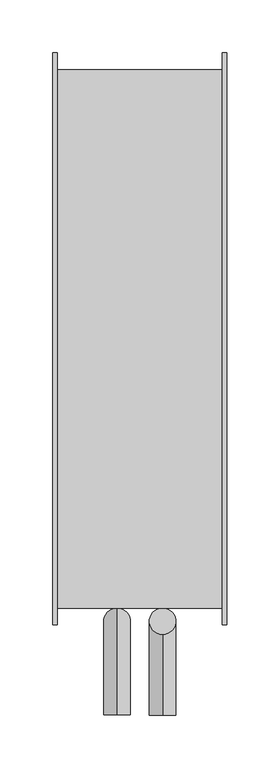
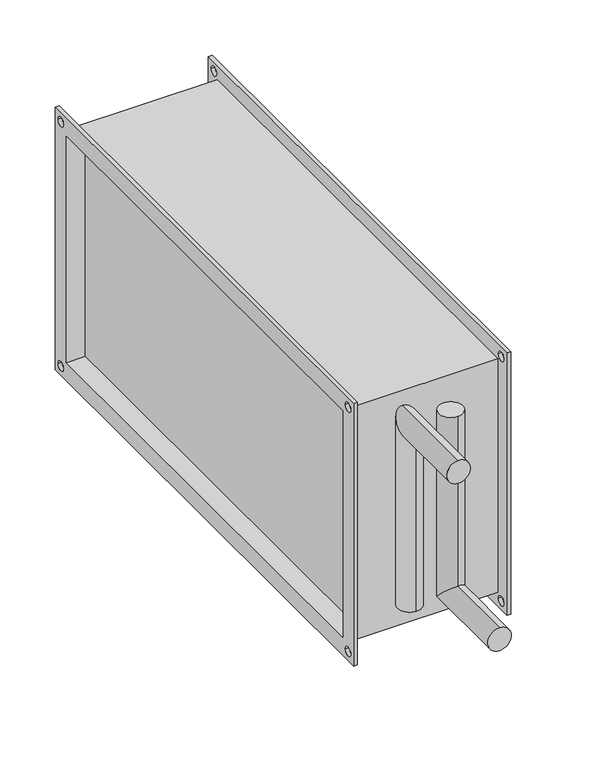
"""IFC4 building model written with IfcOpenShell, lengths in millimetres: proxy geometry, СВ_ВоздухонагревательВодяной_КанальныйПрямоугольный_200-1000_SPH-W : SPH-W-500x250/2."""

from ifc_helpers import new_model, si_unit, frame, origin, place, context, project, spatial, polyline, circle_curve, ellipse_curve, source, transform, mapped, element, save
from ifc_brep_helpers import plane_surface, cylinder_surface, revolved_surface, advanced_brep


def mechanical_equipment_88e3c877(model_context):
    return source(origin(), model_context, "Body", "AdvancedBrep", [
        advanced_brep(
        [(21.5, -254.0, 100.0), (21.5, -279.0, 100.0), (21.5, -254.0, -112.5), (21.5, -279.0, -87.5), (21.5, -355.0, -112.5), (21.5, -355.0, -87.5)],
        [
            (0, 1, circle_curve(frame((21.5, -266.5, 100.0), z_axis=(0.0, 0.0, 1.0), x_axis=(0.0, -1.0, 0.0)), 12.5)),
            (1, 0, circle_curve(frame((21.5, -266.5, 100.0), z_axis=(0.0, 0.0, 1.0), x_axis=(0.0, -1.0, 0.0)), 12.5)),
            (0, 2),
            (2, 3, ellipse_curve(frame((21.5, -266.5, -100.0), z_axis=(0.0, 0.7071067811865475, 0.7071067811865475), x_axis=(0.0, -0.7071067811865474, 0.7071067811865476)), 17.6776695, 12.5)),
            (3, 1),
            (3, 2, ellipse_curve(frame((21.5, -266.5, -100.0), z_axis=(0.0, 0.7071067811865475, 0.7071067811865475), x_axis=(0.0, -0.7071067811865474, 0.7071067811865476)), 17.6776695, 12.5)),
            (4, 5, circle_curve(frame((21.5, -355.0, -100.0), z_axis=(0.0, -1.0, 0.0), x_axis=(0.0, 0.0, 1.0)), 12.5)),
            (5, 4, circle_curve(frame((21.5, -355.0, -100.0), z_axis=(0.0, -1.0, 0.0), x_axis=(0.0, 0.0, 1.0)), 12.5)),
            (2, 4),
            (5, 3),
        ],
        [
            plane_surface(frame((21.5, -266.5, 100.0), z_axis=(0.0, 0.0, 1.0), x_axis=(-1.0, 0.0, 0.0))),
            cylinder_surface(frame((21.5, -266.5, 100.0), z_axis=(0.0, 0.0, 1.0), x_axis=(0.0, -1.0, 0.0)), 12.5),
            plane_surface(frame((21.5, -355.0, -100.0), z_axis=(0.0, -1.0, 0.0), x_axis=(-1.0, 0.0, 0.0))),
            cylinder_surface(frame((21.5, -266.5, -100.0), z_axis=(0.0, 1.0, 0.0), x_axis=(0.0, 0.0, 1.0)), 12.5),
        ],
        [
            (0, [[1, 2]]),
            (1, [[-1, 3, 4, 5]]),
            (1, [[-2, -5, 6, -3]]),
            (2, [[7, 8]]),
            (3, [[-4, 9, -8, 10]]),
            (3, [[-6, -10, -7, -9]]),
        ],
    ),
        advanced_brep(
        [(-21.5, -254.0, -100.0), (-21.5, -279.0, -100.0), (-21.5, -254.0, 112.5), (-21.5, -279.0, 87.5), (-21.5, -355.0, 112.5), (-21.5, -355.0, 87.5)],
        [
            (0, 1, circle_curve(frame((-21.5, -266.5, -100.0), z_axis=(0.0, 0.0, -1.0), x_axis=(0.0, -1.0, 0.0)), 12.5)),
            (1, 0, circle_curve(frame((-21.5, -266.5, -100.0), z_axis=(0.0, 0.0, -1.0), x_axis=(0.0, -1.0, 0.0)), 12.5)),
            (0, 2),
            (2, 3, ellipse_curve(frame((-21.5, -266.5, 100.0), z_axis=(0.0, 0.7071067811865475, -0.7071067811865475), x_axis=(0.0, -0.7071067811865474, -0.7071067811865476)), 17.6776695, 12.5)),
            (3, 1),
            (3, 2, ellipse_curve(frame((-21.5, -266.5, 100.0), z_axis=(0.0, 0.7071067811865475, -0.7071067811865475), x_axis=(0.0, -0.7071067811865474, -0.7071067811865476)), 17.6776695, 12.5)),
            (4, 5, circle_curve(frame((-21.5, -355.0, 100.0), z_axis=(0.0, -1.0, 0.0), x_axis=(0.0, 0.0, -1.0)), 12.5)),
            (5, 4, circle_curve(frame((-21.5, -355.0, 100.0), z_axis=(0.0, -1.0, 0.0), x_axis=(0.0, 0.0, -1.0)), 12.5)),
            (2, 4),
            (5, 3),
        ],
        [
            plane_surface(frame((-21.5, -266.5, -100.0), z_axis=(0.0, 0.0, -1.0), x_axis=(1.0, 0.0, 0.0))),
            cylinder_surface(frame((-21.5, -266.5, -100.0), z_axis=(0.0, 0.0, -1.0), x_axis=(0.0, -1.0, 0.0)), 12.5),
            plane_surface(frame((-21.5, -355.0, 100.0), z_axis=(0.0, -1.0, 0.0), x_axis=(1.0, 0.0, 0.0))),
            cylinder_surface(frame((-21.5, -266.5, 100.0), z_axis=(0.0, 1.0, 0.0), x_axis=(0.0, 0.0, -1.0)), 12.5),
        ],
        [
            (0, [[1, 2]]),
            (1, [[-1, 3, 4, 5]]),
            (1, [[-2, -5, 6, -3]]),
            (2, [[7, 8]]),
            (3, [[-4, 9, -8, 10]]),
            (3, [[-6, -10, -7, -9]]),
        ],
    ),
        advanced_brep(
        [(-78.0, -254.0, 129.0), (-78.0, -254.0, -129.0), (78.0, -254.0, -129.0), (78.0, -254.0, 129.0), (-78.0, 254.0, -129.0), (78.0, 254.0, -129.0), (-78.0, 254.0, 129.0), (78.0, 254.0, 129.0), (62.0, 250.0, -125.0), (62.0, 250.0, 125.0), (62.0, -250.0, 125.0), (62.0, -250.0, -125.0), (-62.0, -250.0, 125.0), (-62.0, 250.0, 125.0), (-62.0, 250.0, -125.0), (-62.0, -250.0, -125.0), (-82.0, -270.0, 145.0), (-82.0, 270.0, 145.0), (-82.0, 270.0, -145.0), (-82.0, -270.0, -145.0), (-82.0, -250.0, 125.0), (-82.0, -250.0, -125.0), (-82.0, 250.0, -125.0), (-82.0, 250.0, 125.0), (-82.0, 255.0, 135.0), (-82.0, 265.0, 135.0), (-82.0, -265.0, 135.0), (-82.0, -255.0, 135.0), (-82.0, -265.0, -135.0), (-82.0, -255.0, -135.0), (-82.0, 255.0, -135.0), (-82.0, 265.0, -135.0), (-78.0, -270.0, 145.0), (-78.0, -270.0, -145.0), (-78.0, 270.0, -145.0), (-78.0, 270.0, 145.0), (-78.0, 265.0, 135.0), (-78.0, 255.0, 135.0), (-78.0, -255.0, 135.0), (-78.0, -265.0, 135.0), (-78.0, -255.0, -135.0), (-78.0, -265.0, -135.0), (-78.0, 265.0, -135.0), (-78.0, 255.0, -135.0), (78.0, 270.0, 145.0), (78.0, 270.0, -145.0), (78.0, -270.0, -145.0), (78.0, -270.0, 145.0), (78.0, 255.0, 135.0), (78.0, 265.0, 135.0), (78.0, -265.0, 135.0), (78.0, -255.0, 135.0), (78.0, -265.0, -135.0), (78.0, -255.0, -135.0), (78.0, 255.0, -135.0), (78.0, 265.0, -135.0), (82.0, 270.0, 145.0), (82.0, -270.0, 145.0), (82.0, -270.0, -145.0), (82.0, 270.0, -145.0), (82.0, 250.0, 125.0), (82.0, 250.0, -125.0), (82.0, -250.0, -125.0), (82.0, -250.0, 125.0), (82.0, 265.0, 135.0), (82.0, 255.0, 135.0), (82.0, -255.0, 135.0), (82.0, -265.0, 135.0), (82.0, -255.0, -135.0), (82.0, -265.0, -135.0), (82.0, 265.0, -135.0), (82.0, 255.0, -135.0)],
        [
            (0, 1),
            (1, 2),
            (2, 3),
            (3, 0),
            (1, 4),
            (4, 5),
            (5, 2),
            (4, 6),
            (6, 7),
            (7, 5),
            (6, 0),
            (3, 7),
            (8, 9),
            (9, 10),
            (10, 11),
            (11, 8),
            (12, 13),
            (13, 14),
            (14, 15),
            (15, 12),
            (16, 17),
            (17, 18),
            (18, 19),
            (19, 16),
            (20, 21),
            (21, 22),
            (22, 23),
            (23, 20),
            (24, 25, circle_curve(frame((-82.0, 260.0, 135.0), z_axis=(1.0, 0.0, 0.0), x_axis=(0.0, -1.0, 0.0)), 5.0)),
            (25, 24, circle_curve(frame((-82.0, 260.0, 135.0), z_axis=(1.0, 0.0, 0.0), x_axis=(0.0, -1.0, 0.0)), 5.0)),
            (26, 27, circle_curve(frame((-82.0, -260.0, 135.0), z_axis=(1.0, 0.0, 0.0), x_axis=(0.0, -1.0, 0.0)), 5.0)),
            (27, 26, circle_curve(frame((-82.0, -260.0, 135.0), z_axis=(1.0, 0.0, 0.0), x_axis=(0.0, -1.0, 0.0)), 5.0)),
            (28, 29, circle_curve(frame((-82.0, -260.0, -135.0), z_axis=(1.0, 0.0, 0.0), x_axis=(0.0, -1.0, 0.0)), 5.0)),
            (29, 28, circle_curve(frame((-82.0, -260.0, -135.0), z_axis=(1.0, 0.0, 0.0), x_axis=(0.0, -1.0, 0.0)), 5.0)),
            (30, 31, circle_curve(frame((-82.0, 260.0, -135.0), z_axis=(1.0, 0.0, 0.0), x_axis=(0.0, -1.0, 0.0)), 5.0)),
            (31, 30, circle_curve(frame((-82.0, 260.0, -135.0), z_axis=(1.0, 0.0, 0.0), x_axis=(0.0, -1.0, 0.0)), 5.0)),
            (32, 33),
            (33, 34),
            (34, 35),
            (35, 32),
            (36, 37, circle_curve(frame((-78.0, 260.0, 135.0), z_axis=(-1.0, 0.0, 0.0), x_axis=(0.0, -1.0, 0.0)), 5.0)),
            (37, 36, circle_curve(frame((-78.0, 260.0, 135.0), z_axis=(-1.0, 0.0, 0.0), x_axis=(0.0, -1.0, 0.0)), 5.0)),
            (38, 39, circle_curve(frame((-78.0, -260.0, 135.0), z_axis=(-1.0, 0.0, 0.0), x_axis=(0.0, -1.0, 0.0)), 5.0)),
            (39, 38, circle_curve(frame((-78.0, -260.0, 135.0), z_axis=(-1.0, 0.0, 0.0), x_axis=(0.0, -1.0, 0.0)), 5.0)),
            (40, 41, circle_curve(frame((-78.0, -260.0, -135.0), z_axis=(-1.0, 0.0, 0.0), x_axis=(0.0, -1.0, 0.0)), 5.0)),
            (41, 40, circle_curve(frame((-78.0, -260.0, -135.0), z_axis=(-1.0, 0.0, 0.0), x_axis=(0.0, -1.0, 0.0)), 5.0)),
            (42, 43, circle_curve(frame((-78.0, 260.0, -135.0), z_axis=(-1.0, 0.0, 0.0), x_axis=(0.0, -1.0, 0.0)), 5.0)),
            (43, 42, circle_curve(frame((-78.0, 260.0, -135.0), z_axis=(-1.0, 0.0, 0.0), x_axis=(0.0, -1.0, 0.0)), 5.0)),
            (19, 33),
            (32, 16),
            (18, 34),
            (17, 35),
            (44, 45),
            (45, 46),
            (46, 47),
            (47, 44),
            (48, 49, circle_curve(frame((78.0, 260.0, 135.0), z_axis=(1.0, 0.0, 0.0), x_axis=(0.0, -1.0, 0.0)), 5.0)),
            (49, 48, circle_curve(frame((78.0, 260.0, 135.0), z_axis=(1.0, 0.0, 0.0), x_axis=(0.0, -1.0, 0.0)), 5.0)),
            (50, 51, circle_curve(frame((78.0, -260.0, 135.0), z_axis=(1.0, 0.0, 0.0), x_axis=(0.0, -1.0, 0.0)), 5.0)),
            (51, 50, circle_curve(frame((78.0, -260.0, 135.0), z_axis=(1.0, 0.0, 0.0), x_axis=(0.0, -1.0, 0.0)), 5.0)),
            (52, 53, circle_curve(frame((78.0, -260.0, -135.0), z_axis=(1.0, 0.0, 0.0), x_axis=(0.0, -1.0, 0.0)), 5.0)),
            (53, 52, circle_curve(frame((78.0, -260.0, -135.0), z_axis=(1.0, 0.0, 0.0), x_axis=(0.0, -1.0, 0.0)), 5.0)),
            (54, 55, circle_curve(frame((78.0, 260.0, -135.0), z_axis=(1.0, 0.0, 0.0), x_axis=(0.0, -1.0, 0.0)), 5.0)),
            (55, 54, circle_curve(frame((78.0, 260.0, -135.0), z_axis=(1.0, 0.0, 0.0), x_axis=(0.0, -1.0, 0.0)), 5.0)),
            (56, 57),
            (57, 58),
            (58, 59),
            (59, 56),
            (60, 61),
            (61, 62),
            (62, 63),
            (63, 60),
            (64, 65, circle_curve(frame((82.0, 260.0, 135.0), z_axis=(-1.0, 0.0, 0.0), x_axis=(0.0, -1.0, 0.0)), 5.0)),
            (65, 64, circle_curve(frame((82.0, 260.0, 135.0), z_axis=(-1.0, 0.0, 0.0), x_axis=(0.0, -1.0, 0.0)), 5.0)),
            (66, 67, circle_curve(frame((82.0, -260.0, 135.0), z_axis=(-1.0, 0.0, 0.0), x_axis=(0.0, -1.0, 0.0)), 5.0)),
            (67, 66, circle_curve(frame((82.0, -260.0, 135.0), z_axis=(-1.0, 0.0, 0.0), x_axis=(0.0, -1.0, 0.0)), 5.0)),
            (68, 69, circle_curve(frame((82.0, -260.0, -135.0), z_axis=(-1.0, 0.0, 0.0), x_axis=(0.0, -1.0, 0.0)), 5.0)),
            (69, 68, circle_curve(frame((82.0, -260.0, -135.0), z_axis=(-1.0, 0.0, 0.0), x_axis=(0.0, -1.0, 0.0)), 5.0)),
            (70, 71, circle_curve(frame((82.0, 260.0, -135.0), z_axis=(-1.0, 0.0, 0.0), x_axis=(0.0, -1.0, 0.0)), 5.0)),
            (71, 70, circle_curve(frame((82.0, 260.0, -135.0), z_axis=(-1.0, 0.0, 0.0), x_axis=(0.0, -1.0, 0.0)), 5.0)),
            (47, 57),
            (56, 44),
            (46, 58),
            (45, 59),
            (23, 13),
            (12, 20),
            (22, 14),
            (21, 15),
            (60, 9),
            (8, 61),
            (11, 62),
            (10, 63),
            (36, 25),
            (24, 37),
            (64, 49),
            (48, 65),
            (38, 27),
            (26, 39),
            (66, 51),
            (50, 67),
            (40, 29),
            (28, 41),
            (68, 53),
            (52, 69),
            (42, 31),
            (30, 43),
            (70, 55),
            (54, 71),
        ],
        [
            plane_surface(frame((-62.0, -254.0, 129.0), z_axis=(0.0, -1.0, 0.0), x_axis=(-1.0, 0.0, 0.0))),
            plane_surface(frame((-62.0, -254.0, -129.0), z_axis=(0.0, 0.0, -1.0), x_axis=(-1.0, 0.0, 0.0))),
            plane_surface(frame((-62.0, 254.0, -129.0), z_axis=(0.0, 1.0, 0.0), x_axis=(-1.0, 0.0, 0.0))),
            plane_surface(frame((-62.0, 254.0, 129.0), z_axis=(0.0, 0.0, 1.0), x_axis=(-1.0, 0.0, 0.0))),
            plane_surface(frame((62.0, -254.0, 129.0), z_axis=(1.0, 0.0, 0.0), x_axis=(0.0, 0.0, -1.0))),
            plane_surface(frame((-62.0, -254.0, 129.0), z_axis=(-1.0, 0.0, 0.0), x_axis=(0.0, 0.0, 1.0))),
            plane_surface(frame((-82.0, -270.0, 145.0), z_axis=(-1.0, 0.0, 0.0), x_axis=(0.0, 0.0, 1.0))),
            plane_surface(frame((-78.0, -270.0, 145.0), z_axis=(1.0, 0.0, 0.0), x_axis=(0.0, 0.0, -1.0))),
            plane_surface(frame((-78.0, -270.0, 145.0), z_axis=(0.0, -1.0, 0.0), x_axis=(-1.0, 0.0, 0.0))),
            plane_surface(frame((-78.0, -270.0, -145.0), z_axis=(0.0, 0.0, -1.0), x_axis=(-1.0, 0.0, 0.0))),
            plane_surface(frame((-78.0, 270.0, -145.0), z_axis=(0.0, 1.0, 0.0), x_axis=(-1.0, 0.0, 0.0))),
            plane_surface(frame((-78.0, 270.0, 145.0), z_axis=(0.0, 0.0, 1.0), x_axis=(-1.0, 0.0, 0.0))),
            plane_surface(frame((78.0, 250.0, -125.0), z_axis=(-1.0, 0.0, 0.0), x_axis=(0.0, 0.0, 1.0))),
            plane_surface(frame((82.0, 250.0, -125.0), z_axis=(1.0, 0.0, 0.0), x_axis=(0.0, 0.0, -1.0))),
            plane_surface(frame((82.0, 270.0, 145.0), z_axis=(0.0, 0.0, 1.0), x_axis=(-1.0, 0.0, 0.0))),
            plane_surface(frame((82.0, -270.0, 145.0), z_axis=(0.0, -1.0, 0.0), x_axis=(-1.0, 0.0, 0.0))),
            plane_surface(frame((82.0, -270.0, -145.0), z_axis=(0.0, 0.0, -1.0), x_axis=(-1.0, 0.0, 0.0))),
            plane_surface(frame((82.0, 270.0, -145.0), z_axis=(0.0, 1.0, 0.0), x_axis=(-1.0, 0.0, 0.0))),
            plane_surface(frame((-78.0, -250.0, 125.0), z_axis=(0.0, 0.0, -1.0), x_axis=(-1.0, 0.0, 0.0))),
            plane_surface(frame((-78.0, 250.0, 125.0), z_axis=(0.0, -1.0, 0.0), x_axis=(-1.0, 0.0, 0.0))),
            plane_surface(frame((-78.0, 250.0, -125.0), z_axis=(0.0, 0.0, 1.0), x_axis=(-1.0, 0.0, 0.0))),
            plane_surface(frame((-78.0, -250.0, -125.0), z_axis=(0.0, 1.0, 0.0), x_axis=(-1.0, 0.0, 0.0))),
            plane_surface(frame((82.0, 250.0, 125.0), z_axis=(0.0, -1.0, 0.0), x_axis=(-1.0, 0.0, 0.0))),
            plane_surface(frame((82.0, 250.0, -125.0), z_axis=(0.0, 0.0, 1.0), x_axis=(-1.0, 0.0, 0.0))),
            plane_surface(frame((82.0, -250.0, -125.0), z_axis=(0.0, 1.0, 0.0), x_axis=(-1.0, 0.0, 0.0))),
            plane_surface(frame((82.0, -250.0, 125.0), z_axis=(0.0, 0.0, -1.0), x_axis=(-1.0, 0.0, 0.0))),
            revolved_surface(polyline([(-82.0, 255.0, 135.0), (-78.0, 255.0, 135.0)]), (82.0, 260.0, 135.0), (-1.0, 0.0, 0.0)),
            revolved_surface(polyline([(78.0, 255.0, 135.0), (82.0, 255.0, 135.0)]), (82.0, 260.0, 135.0), (-1.0, 0.0, 0.0)),
            revolved_surface(polyline([(-82.0, -265.0, 135.0), (-78.0, -265.0, 135.0)]), (21.5, -260.0, 135.0), (-1.0, 0.0, 0.0)),
            revolved_surface(polyline([(78.0, -265.0, 135.0), (82.0, -265.0, 135.0)]), (21.5, -260.0, 135.0), (-1.0, 0.0, 0.0)),
            revolved_surface(polyline([(-82.0, -265.0, -135.0), (-78.0, -265.0, -135.0)]), (21.5, -260.0, -135.0), (-1.0, 0.0, 0.0)),
            revolved_surface(polyline([(78.0, -265.0, -135.0), (82.0, -265.0, -135.0)]), (21.5, -260.0, -135.0), (-1.0, 0.0, 0.0)),
            revolved_surface(polyline([(-82.0, 255.0, -135.0), (-78.0, 255.0, -135.0)]), (21.5, 260.0, -135.0), (-1.0, 0.0, 0.0)),
            revolved_surface(polyline([(78.0, 255.0, -135.0), (82.0, 255.0, -135.0)]), (21.5, 260.0, -135.0), (-1.0, 0.0, 0.0)),
        ],
        [
            (0, [[1, 2, 3, 4]]),
            (1, [[-2, 5, 6, 7]]),
            (2, [[-6, 8, 9, 10]]),
            (3, [[-9, 11, -4, 12]]),
            (4, [[13, 14, 15, 16]]),
            (5, [[17, 18, 19, 20]]),
            (6, [[21, 22, 23, 24], [25, 26, 27, 28], [29, 30], [31, 32], [33, 34], [35, 36]]),
            (7, [[37, 38, 39, 40], [-1, -11, -8, -5], [41, 42], [43, 44], [45, 46], [47, 48]]),
            (8, [[-24, 49, -37, 50]]),
            (9, [[-23, 51, -38, -49]]),
            (10, [[-22, 52, -39, -51]]),
            (11, [[-21, -50, -40, -52]]),
            (12, [[53, 54, 55, 56], [-3, -7, -10, -12], [57, 58], [59, 60], [61, 62], [63, 64]]),
            (13, [[65, 66, 67, 68], [69, 70, 71, 72], [73, 74], [75, 76], [77, 78], [79, 80]]),
            (14, [[-56, 81, -65, 82]]),
            (15, [[-55, 83, -66, -81]]),
            (16, [[-54, 84, -67, -83]]),
            (17, [[-53, -82, -68, -84]]),
            (18, [[-28, 85, -17, 86]]),
            (19, [[-27, 87, -18, -85]]),
            (20, [[-26, 88, -19, -87]]),
            (21, [[-25, -86, -20, -88]]),
            (22, [[-69, 89, -13, 90]]),
            (23, [[-70, -90, -16, 91]]),
            (24, [[-71, -91, -15, 92]]),
            (25, [[-89, -72, -92, -14]]),
            (26, [[93, -29, 94, -41]]),
            (27, [[95, -57, 96, -73]]),
            (26, [[-93, -42, -94, -30]]),
            (27, [[-95, -74, -96, -58]]),
            (28, [[97, -31, 98, -43]]),
            (29, [[99, -59, 100, -75]]),
            (28, [[-97, -44, -98, -32]]),
            (29, [[-99, -76, -100, -60]]),
            (30, [[101, -33, 102, -45]]),
            (31, [[103, -61, 104, -77]]),
            (30, [[-101, -46, -102, -34]]),
            (31, [[-103, -78, -104, -62]]),
            (32, [[105, -35, 106, -47]]),
            (33, [[107, -63, 108, -79]]),
            (32, [[-105, -48, -106, -36]]),
            (33, [[-107, -80, -108, -64]]),
        ],
    ),
    ])


if __name__ == "__main__":
    model = new_model("IFC4")
    model_context = context("Model", 3, world=origin())
    ifc_project = project(units=[si_unit("LENGTHUNIT", "METRE", prefix="MILLI")], contexts=[model_context])
    site = spatial("IfcSite", under=ifc_project)
    building = spatial("IfcBuilding", under=site)
    placement = place(None, origin())
    mechanical_equipment_shape = mechanical_equipment_88e3c877(model_context)
    element("IfcBuildingElementProxy", 1, Name="СВ_ВоздухонагревательВодяной_КанальныйПрямоугольный_200-1000_SPH-W : SPH-W-500x250/2", ObjectType="СВ_ВоздухонагревательВодяной_КанальныйПрямоугольный_200-1000_SPH-W : SPH-W-500x250/2", at=placement, inside=building, context=model_context, shape_type="MappedRepresentation", body=[
        mapped(mechanical_equipment_shape, transform((0.0, 0.0, 0.0), x_axis=(1.0, 0.0, 0.0), y_axis=(0.0, 1.0, 0.0), z_axis=(0.0, 0.0, 1.0))),
    ])
    save(model, "model.ifc")
